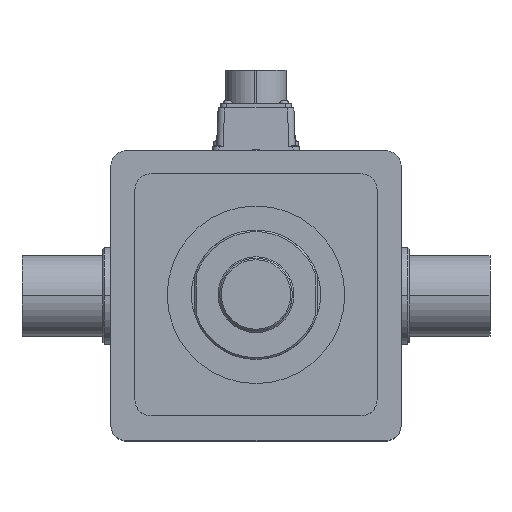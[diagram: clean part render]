
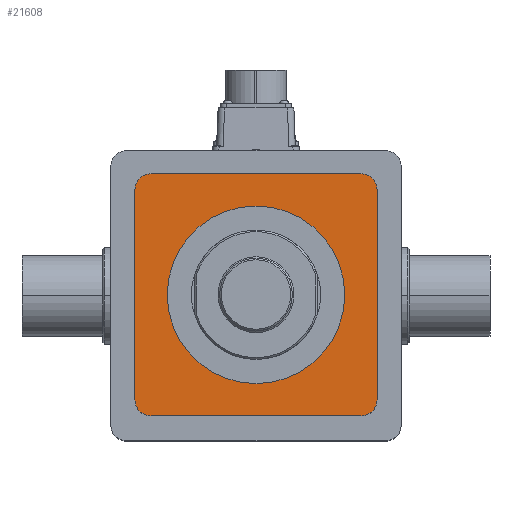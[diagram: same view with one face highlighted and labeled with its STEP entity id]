
A CAD part, top view. The second image highlights one B-rep face of the part: STEP entity #21608.
In plain terms, the highlighted planar face has unit normal (0, 0, 1).
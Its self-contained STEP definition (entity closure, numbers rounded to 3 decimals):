
#309 = VERTEX_POINT ( 'NONE', #10928 ) ;
#454 = ORIENTED_EDGE ( 'NONE', *, *, #28335, .F. ) ;
#594 = ORIENTED_EDGE ( 'NONE', *, *, #18497, .T. ) ;
#1075 = CARTESIAN_POINT ( 'NONE',  ( 100., 75., 315. ) ) ;
#1088 = VERTEX_POINT ( 'NONE', #26782 ) ;
#1206 = DIRECTION ( 'NONE',  ( -1., 0., 0. ) ) ;
#1319 = VECTOR ( 'NONE', #25147, 1000. ) ;
#1344 = CARTESIAN_POINT ( 'NONE',  ( 65., -75., 315. ) ) ;
#2016 = CARTESIAN_POINT ( 'NONE',  ( 55., 0., 315. ) ) ;
#2152 = EDGE_CURVE ( 'NONE', #13140, #13418, #10682, .T. ) ;
#2237 = ORIENTED_EDGE ( 'NONE', *, *, #18137, .F. ) ;
#2356 = DIRECTION ( 'NONE',  ( 0., 0., 1. ) ) ;
#2619 = DIRECTION ( 'NONE',  ( 1., 0., 0. ) ) ;
#2711 = CARTESIAN_POINT ( 'NONE',  ( 65., -65., 315. ) ) ;
#3157 = CARTESIAN_POINT ( 'NONE',  ( 0., 0., 315. ) ) ;
#3203 = DIRECTION ( 'NONE',  ( 1., 0., 0. ) ) ;
#3443 = DIRECTION ( 'NONE',  ( -1., 0., 0. ) ) ;
#3490 = VECTOR ( 'NONE', #3203, 1000. ) ;
#3671 = DIRECTION ( 'NONE',  ( -1., 0., 0. ) ) ;
#4044 = VECTOR ( 'NONE', #16645, 1000. ) ;
#4045 = VERTEX_POINT ( 'NONE', #10793 ) ;
#4504 = AXIS2_PLACEMENT_3D ( 'NONE', #3157, #18529, #1206 ) ;
#5380 = VECTOR ( 'NONE', #11881, 1000. ) ;
#5779 = DIRECTION ( 'NONE',  ( 1., 0., 0. ) ) ;
#5796 = FACE_OUTER_BOUND ( 'NONE', #8031, .T. ) ;
#5799 = DIRECTION ( 'NONE',  ( 0., 0., -1. ) ) ;
#5982 = CARTESIAN_POINT ( 'NONE',  ( 0., 0., 315. ) ) ;
#6581 = CARTESIAN_POINT ( 'NONE',  ( -65., -75., 315. ) ) ;
#7307 = CARTESIAN_POINT ( 'NONE',  ( -55., 0., 315. ) ) ;
#7432 = ORIENTED_EDGE ( 'NONE', *, *, #12860, .T. ) ;
#7729 = DIRECTION ( 'NONE',  ( 0., 0., -1. ) ) ;
#8031 = EDGE_LOOP ( 'NONE', ( #594, #21344, #22416, #15364, #23898, #7432, #17184, #454 ) ) ;
#8565 = LINE ( 'NONE', #1075, #4044 ) ;
#9109 = CARTESIAN_POINT ( 'NONE',  ( 65., 65., 315. ) ) ;
#9267 = EDGE_CURVE ( 'NONE', #23217, #26245, #26268, .T. ) ;
#9877 = CARTESIAN_POINT ( 'NONE',  ( -75., 65., 315. ) ) ;
#9883 = AXIS2_PLACEMENT_3D ( 'NONE', #9109, #2356, #15516 ) ;
#10487 = VERTEX_POINT ( 'NONE', #1344 ) ;
#10491 = ORIENTED_EDGE ( 'NONE', *, *, #2152, .F. ) ;
#10682 = CIRCLE ( 'NONE', #16770, 55. ) ;
#10793 = CARTESIAN_POINT ( 'NONE',  ( 65., 75., 315. ) ) ;
#10928 = CARTESIAN_POINT ( 'NONE',  ( -65., 75., 315. ) ) ;
#11147 = CIRCLE ( 'NONE', #4504, 55. ) ;
#11370 = CARTESIAN_POINT ( 'NONE',  ( -75., -65., 315. ) ) ;
#11881 = DIRECTION ( 'NONE',  ( 0., -1., 0. ) ) ;
#11967 = CARTESIAN_POINT ( 'NONE',  ( 0., 0., 315. ) ) ;
#12017 = CARTESIAN_POINT ( 'NONE',  ( -65., -65., 315. ) ) ;
#12073 = CARTESIAN_POINT ( 'NONE',  ( 75., 0., 315. ) ) ;
#12749 = CARTESIAN_POINT ( 'NONE',  ( -65., 65., 315. ) ) ;
#12860 = EDGE_CURVE ( 'NONE', #19746, #10487, #27077, .T. ) ;
#12947 = EDGE_CURVE ( 'NONE', #23217, #309, #19752, .T. ) ;
#13063 = CIRCLE ( 'NONE', #18195, 10. ) ;
#13140 = VERTEX_POINT ( 'NONE', #2016 ) ;
#13418 = VERTEX_POINT ( 'NONE', #7307 ) ;
#13687 = LINE ( 'NONE', #12073, #5380 ) ;
#14263 = AXIS2_PLACEMENT_3D ( 'NONE', #12017, #7729, #20621 ) ;
#15076 = EDGE_CURVE ( 'NONE', #19746, #26245, #15492, .T. ) ;
#15364 = ORIENTED_EDGE ( 'NONE', *, *, #9267, .T. ) ;
#15492 = CIRCLE ( 'NONE', #14263, 10. ) ;
#15516 = DIRECTION ( 'NONE',  ( 1., 0., 0. ) ) ;
#16645 = DIRECTION ( 'NONE',  ( -1., 0., 0. ) ) ;
#16770 = AXIS2_PLACEMENT_3D ( 'NONE', #11967, #18730, #3443 ) ;
#17184 = ORIENTED_EDGE ( 'NONE', *, *, #26864, .F. ) ;
#17895 = DIRECTION ( 'NONE',  ( 0., 0., -1. ) ) ;
#18137 = EDGE_CURVE ( 'NONE', #13418, #13140, #11147, .T. ) ;
#18195 = AXIS2_PLACEMENT_3D ( 'NONE', #2711, #17895, #2619 ) ;
#18497 = EDGE_CURVE ( 'NONE', #1088, #4045, #25698, .T. ) ;
#18529 = DIRECTION ( 'NONE',  ( 0., 0., 1. ) ) ;
#18577 = CARTESIAN_POINT ( 'NONE',  ( 100., -75., 315. ) ) ;
#18730 = DIRECTION ( 'NONE',  ( 0., 0., 1. ) ) ;
#19041 = AXIS2_PLACEMENT_3D ( 'NONE', #12749, #25741, #5779 ) ;
#19234 = PLANE ( 'NONE',  #19937 ) ;
#19291 = FACE_BOUND ( 'NONE', #22115, .T. ) ;
#19746 = VERTEX_POINT ( 'NONE', #6581 ) ;
#19752 = CIRCLE ( 'NONE', #19041, 10. ) ;
#19937 = AXIS2_PLACEMENT_3D ( 'NONE', #5982, #5799, #3671 ) ;
#20621 = DIRECTION ( 'NONE',  ( 1., 0., 0. ) ) ;
#20971 = CARTESIAN_POINT ( 'NONE',  ( -75., 0., 315. ) ) ;
#21344 = ORIENTED_EDGE ( 'NONE', *, *, #21476, .T. ) ;
#21476 = EDGE_CURVE ( 'NONE', #4045, #309, #8565, .T. ) ;
#21608 = ADVANCED_FACE ( 'NONE', ( #5796, #19291 ), #19234, .F. ) ;
#21857 = VERTEX_POINT ( 'NONE', #26737 ) ;
#22115 = EDGE_LOOP ( 'NONE', ( #2237, #10491 ) ) ;
#22416 = ORIENTED_EDGE ( 'NONE', *, *, #12947, .F. ) ;
#23217 = VERTEX_POINT ( 'NONE', #9877 ) ;
#23898 = ORIENTED_EDGE ( 'NONE', *, *, #15076, .F. ) ;
#25147 = DIRECTION ( 'NONE',  ( 0., -1., 0. ) ) ;
#25698 = CIRCLE ( 'NONE', #9883, 10. ) ;
#25741 = DIRECTION ( 'NONE',  ( 0., 0., -1. ) ) ;
#26245 = VERTEX_POINT ( 'NONE', #11370 ) ;
#26268 = LINE ( 'NONE', #20971, #1319 ) ;
#26737 = CARTESIAN_POINT ( 'NONE',  ( 75., -65., 315. ) ) ;
#26782 = CARTESIAN_POINT ( 'NONE',  ( 75., 65., 315. ) ) ;
#26864 = EDGE_CURVE ( 'NONE', #21857, #10487, #13063, .T. ) ;
#27077 = LINE ( 'NONE', #18577, #3490 ) ;
#28335 = EDGE_CURVE ( 'NONE', #1088, #21857, #13687, .T. ) ;
